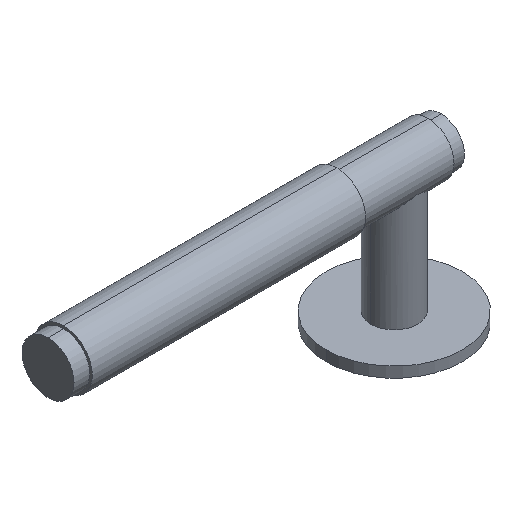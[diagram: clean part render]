
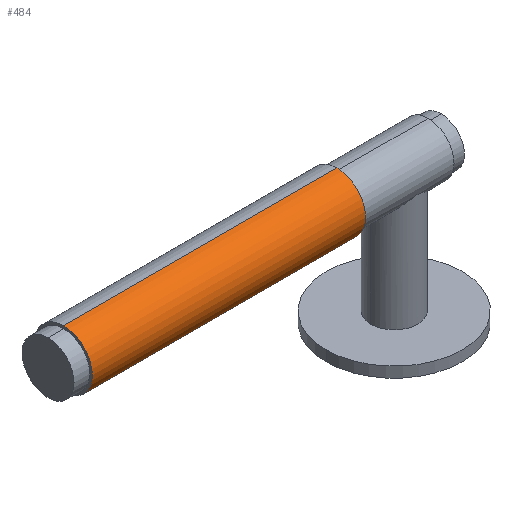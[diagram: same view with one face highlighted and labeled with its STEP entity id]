
A CAD part, isometric view. The second image highlights one B-rep face of the part: STEP entity #484.
In plain terms, the highlighted cylindrical face has radius 11 mm (diameter 22 mm), a partial arc.
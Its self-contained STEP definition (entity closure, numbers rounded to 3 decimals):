
#29 = DIRECTION ( 'NONE',  ( 0., 0., -1. ) ) ;
#79 = CYLINDRICAL_SURFACE ( 'NONE', #436, 11. ) ;
#91 = LINE ( 'NONE', #284, #340 ) ;
#99 = FACE_OUTER_BOUND ( 'NONE', #548, .T. ) ;
#103 = EDGE_CURVE ( 'NONE', #554, #617, #379, .T. ) ;
#115 = CARTESIAN_POINT ( 'NONE',  ( -110.987, 1.775, 62.5 ) ) ;
#134 = DIRECTION ( 'NONE',  ( 1., 0., 0. ) ) ;
#149 = VECTOR ( 'NONE', #670, 1000. ) ;
#206 = DIRECTION ( 'NONE',  ( 1., 0., 0. ) ) ;
#217 = EDGE_CURVE ( 'NONE', #321, #494, #568, .T. ) ;
#247 = EDGE_CURVE ( 'NONE', #617, #494, #91, .T. ) ;
#252 = ORIENTED_EDGE ( 'NONE', *, *, #103, .T. ) ;
#260 = EDGE_CURVE ( 'NONE', #554, #321, #545, .T. ) ;
#284 = CARTESIAN_POINT ( 'NONE',  ( 34.013, 1.775, 40.5 ) ) ;
#311 = ORIENTED_EDGE ( 'NONE', *, *, #260, .F. ) ;
#321 = VERTEX_POINT ( 'NONE', #661 ) ;
#338 = CARTESIAN_POINT ( 'NONE',  ( 34.013, 1.775, 62.5 ) ) ;
#340 = VECTOR ( 'NONE', #616, 1000. ) ;
#350 = ORIENTED_EDGE ( 'NONE', *, *, #247, .T. ) ;
#379 = CIRCLE ( 'NONE', #389, 11. ) ;
#389 = AXIS2_PLACEMENT_3D ( 'NONE', #636, #206, #412 ) ;
#394 = DIRECTION ( 'NONE',  ( 0., 0., -1. ) ) ;
#412 = DIRECTION ( 'NONE',  ( 0., 0., -1. ) ) ;
#436 = AXIS2_PLACEMENT_3D ( 'NONE', #482, #599, #29 ) ;
#446 = CARTESIAN_POINT ( 'NONE',  ( -5.987, 1.775, 51.5 ) ) ;
#482 = CARTESIAN_POINT ( 'NONE',  ( 34.013, 1.775, 51.5 ) ) ;
#484 = ADVANCED_FACE ( 'NONE', ( #99 ), #79, .T. ) ;
#494 = VERTEX_POINT ( 'NONE', #540 ) ;
#540 = CARTESIAN_POINT ( 'NONE',  ( -5.987, 1.775, 40.5 ) ) ;
#545 = LINE ( 'NONE', #338, #149 ) ;
#548 = EDGE_LOOP ( 'NONE', ( #311, #252, #350, #627 ) ) ;
#554 = VERTEX_POINT ( 'NONE', #115 ) ;
#568 = CIRCLE ( 'NONE', #649, 11. ) ;
#599 = DIRECTION ( 'NONE',  ( 1., 0., 0. ) ) ;
#616 = DIRECTION ( 'NONE',  ( 1., 0., 0. ) ) ;
#617 = VERTEX_POINT ( 'NONE', #633 ) ;
#627 = ORIENTED_EDGE ( 'NONE', *, *, #217, .F. ) ;
#633 = CARTESIAN_POINT ( 'NONE',  ( -110.987, 1.775, 40.5 ) ) ;
#636 = CARTESIAN_POINT ( 'NONE',  ( -110.987, 1.775, 51.5 ) ) ;
#649 = AXIS2_PLACEMENT_3D ( 'NONE', #446, #134, #394 ) ;
#661 = CARTESIAN_POINT ( 'NONE',  ( -5.987, 1.775, 62.5 ) ) ;
#670 = DIRECTION ( 'NONE',  ( 1., 0., 0. ) ) ;
